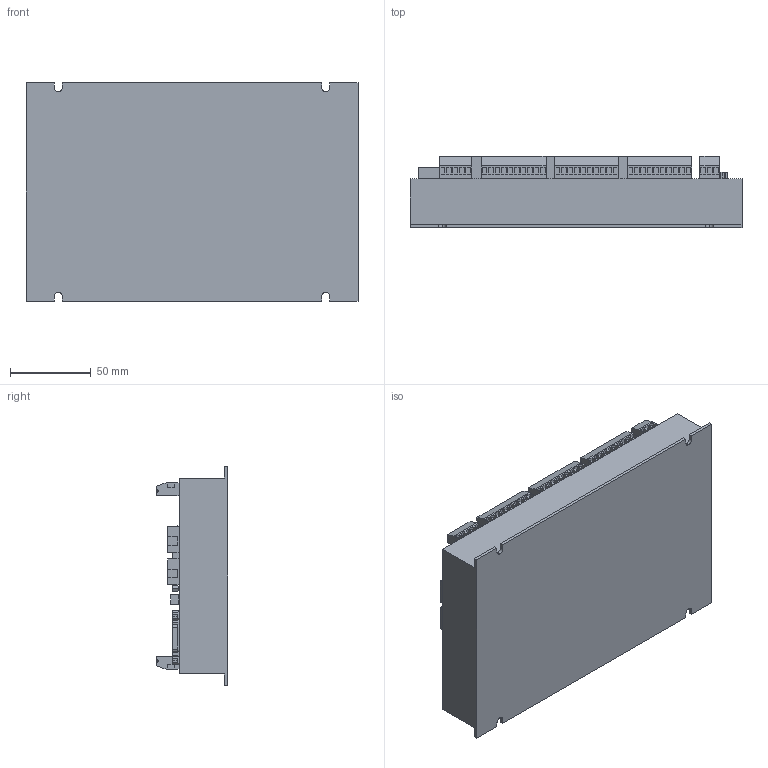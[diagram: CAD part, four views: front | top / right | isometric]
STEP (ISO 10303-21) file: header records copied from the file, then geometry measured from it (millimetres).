
FILE_DESCRIPTION (( 'STEP AP214' ), '1' );
FILE_NAME ('ZMC406-432.STEP', '2018-08-24T09:49:32', ( 'Microsoft' ), ( ' ' ), 'SwSTEP 2.0', 'SolidWorks 2014', '' );
FILE_SCHEMA (( 'AUTOMOTIVE_DESIGN' ));
Length unit declared in the file: millimetre
Products named in the file (11): ZMC464-432-406-俋褲; ZMC406-432; U攫; 傷赽-苤-5; 26渀-3齬-譫芛; 厙諳-傻; 三连灯; 傷赽-苤-3; 傷赽-苤-10; 腑; 9渀-2齬-鼠芛
Assembly tree (24 placements, depth 3):
  ZMC406-432
    ZMC464-432-406-俋褲
    9渀-2齬-鼠芛
    腑
    傷赽-苤-10  x4
    傷赽-苤-3
    三连灯
      腑  x3
    厙諳-傻  x2
    26渀-3齬-譫芛  x6
    傷赽-苤-5  x3
    U攫
Bounding box: 205 x 44 x 135 mm (x, y, z)
Volume: 778050.7 mm3; surface area: 100113.9 mm2
Topology: 86 solids, 86 shells, 2946 faces, 7434 edges, 4952 vertices
Faces by surface type: plane 2022, cylinder 528, bspline 388, sphere 8
Entity records: 73963 total; most frequent: CARTESIAN_POINT 27947, ORIENTED_EDGE 9856, DIRECTION 7472, EDGE_CURVE 4928, VECTOR 3804, LINE 3804, VERTEX_POINT 3285, EDGE_LOOP 1939
